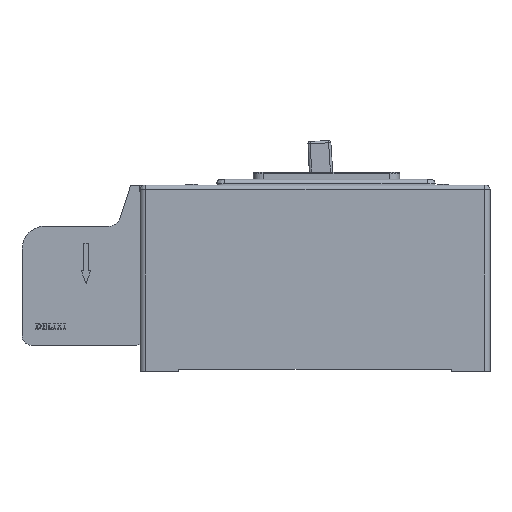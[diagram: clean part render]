
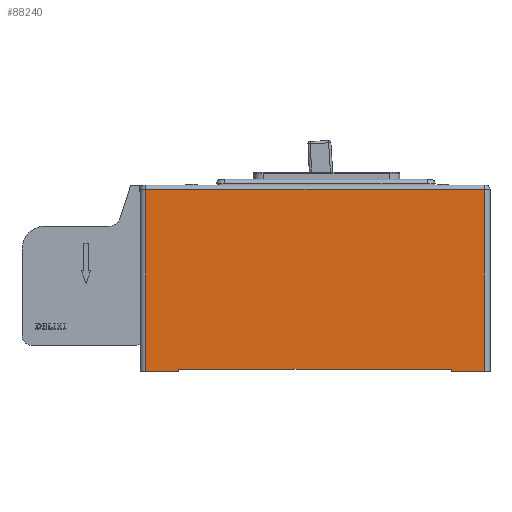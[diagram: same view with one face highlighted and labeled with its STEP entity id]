
A CAD part, left-side view. The second image highlights one B-rep face of the part: STEP entity #88240.
In plain terms, the highlighted planar face has unit normal (-1, 0, 0).
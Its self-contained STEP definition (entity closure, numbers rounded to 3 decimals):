
#16066=DIRECTION('',(0.,0.,1.));
#16067=VECTOR('',#16066,1.);
#16068=CARTESIAN_POINT('',(0.,17.,0.));
#16069=LINE('',#16068,#16067);
#16070=DIRECTION('',(0.,1.,0.));
#16071=VECTOR('',#16070,119.);
#16072=CARTESIAN_POINT('',(0.,17.,1.));
#16073=LINE('',#16072,#16071);
#16074=DIRECTION('',(0.,0.,1.));
#16075=VECTOR('',#16074,1.);
#16076=CARTESIAN_POINT('',(0.,136.,0.));
#16077=LINE('',#16076,#16075);
#16082=DIRECTION('',(0.,0.,-1.));
#16083=VECTOR('',#16082,79.5);
#16084=CARTESIAN_POINT('',(0.,150.5,79.5));
#16085=LINE('',#16084,#16083);
#16101=DIRECTION('',(0.,1.,0.));
#16102=VECTOR('',#16101,148.);
#16103=CARTESIAN_POINT('',(0.,2.5,79.5));
#16104=LINE('',#16103,#16102);
#22549=DIRECTION('',(0.,-1.,0.));
#22550=VECTOR('',#22549,14.5);
#22551=CARTESIAN_POINT('',(0.,17.,0.));
#22552=LINE('',#22551,#22550);
#22569=DIRECTION('',(0.,0.,1.));
#22570=VECTOR('',#22569,79.5);
#22571=CARTESIAN_POINT('',(0.,2.5,0.));
#22572=LINE('',#22571,#22570);
#26718=DIRECTION('',(0.,-1.,0.));
#26719=VECTOR('',#26718,14.5);
#26720=CARTESIAN_POINT('',(0.,150.5,0.));
#26721=LINE('',#26720,#26719);
#50822=CARTESIAN_POINT('',(0.,17.,1.));
#50823=CARTESIAN_POINT('',(0.,136.,1.));
#50824=VERTEX_POINT('',#50822);
#50825=VERTEX_POINT('',#50823);
#50826=CARTESIAN_POINT('',(0.,17.,0.));
#50827=VERTEX_POINT('',#50826);
#50828=CARTESIAN_POINT('',(0.,136.,0.));
#50829=VERTEX_POINT('',#50828);
#51040=CARTESIAN_POINT('',(0.,150.5,0.));
#51042=VERTEX_POINT('',#51040);
#51045=CARTESIAN_POINT('',(0.,2.5,0.));
#51047=VERTEX_POINT('',#51045);
#58580=CARTESIAN_POINT('',(0.,150.5,79.5));
#58581=VERTEX_POINT('',#58580);
#58582=CARTESIAN_POINT('',(0.,2.5,79.5));
#58583=VERTEX_POINT('',#58582);
#88220=CARTESIAN_POINT('',(0.,153.,0.));
#88221=DIRECTION('',(-1.,0.,0.));
#88222=DIRECTION('',(0.,-1.,0.));
#88223=AXIS2_PLACEMENT_3D('',#88220,#88221,#88222);
#88224=PLANE('',#88223);
#88226=ORIENTED_EDGE('',*,*,#88225,.F.);
#88228=ORIENTED_EDGE('',*,*,#88227,.F.);
#88230=ORIENTED_EDGE('',*,*,#88229,.F.);
#88232=ORIENTED_EDGE('',*,*,#88231,.F.);
#88233=ORIENTED_EDGE('',*,*,#88151,.T.);
#88234=ORIENTED_EDGE('',*,*,#88212,.T.);
#88235=ORIENTED_EDGE('',*,*,#69914,.F.);
#88237=ORIENTED_EDGE('',*,*,#88236,.F.);
#88238=EDGE_LOOP('',(#88226,#88228,#88230,#88232,#88233,#88234,#88235,#88237));
#88239=FACE_OUTER_BOUND('',#88238,.F.);
#88240=ADVANCED_FACE('',(#88239),#88224,.T.);
#69914=EDGE_CURVE('',#50829,#50825,#16077,.T.);
#88151=EDGE_CURVE('',#50827,#50824,#16069,.T.);
#88212=EDGE_CURVE('',#50824,#50825,#16073,.T.);
#88225=EDGE_CURVE('',#58581,#51042,#16085,.T.);
#88227=EDGE_CURVE('',#58583,#58581,#16104,.T.);
#88229=EDGE_CURVE('',#51047,#58583,#22572,.T.);
#88231=EDGE_CURVE('',#50827,#51047,#22552,.T.);
#88236=EDGE_CURVE('',#51042,#50829,#26721,.T.);
